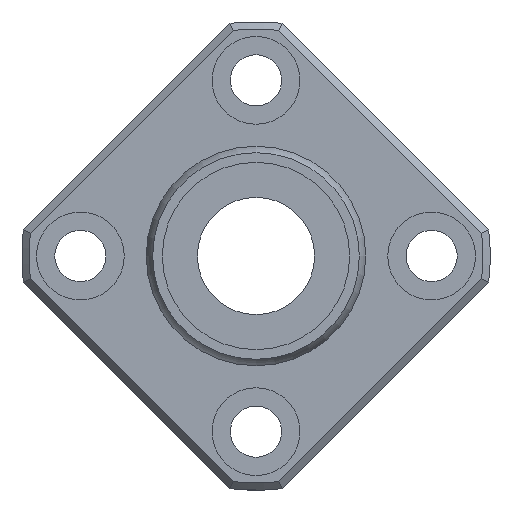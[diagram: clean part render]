
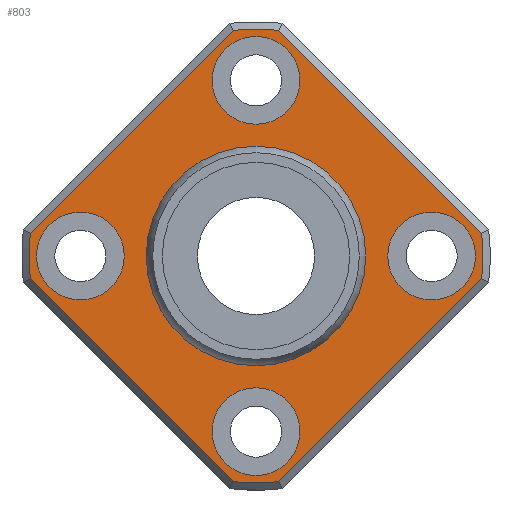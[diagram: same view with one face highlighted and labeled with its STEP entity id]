
A CAD part, left-side view. The second image highlights one B-rep face of the part: STEP entity #803.
In plain terms, the highlighted planar face has unit normal (-1, 0, 0).
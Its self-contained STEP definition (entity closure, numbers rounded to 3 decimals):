
#498=CARTESIAN_POINT('',(20.0,-1.548,-15.422));
#499=VERTEX_POINT('',#498);
#507=CARTESIAN_POINT('',(20.0,1.548,-15.422));
#508=VERTEX_POINT('',#507);
#509=CARTESIAN_POINT('',(20.0,0.0,0.0));
#510=DIRECTION('',(1.0,0.0,0.0));
#511=DIRECTION('',(0.0,0.0,-1.0));
#512=AXIS2_PLACEMENT_3D('',#509,#510,#511);
#513=CIRCLE('',#512,15.5);
#514=EDGE_CURVE('',#499,#508,#513,.T.);
#540=CARTESIAN_POINT('',(20.0,15.422,-1.548));
#541=VERTEX_POINT('',#540);
#542=CARTESIAN_POINT('',(20.0,1.548,-15.422));
#543=DIRECTION('',(0.0,0.707,0.707));
#544=VECTOR('',#543,19.621);
#545=LINE('',#542,#544);
#546=EDGE_CURVE('',#508,#541,#545,.T.);
#573=CARTESIAN_POINT('',(20.0,15.422,1.548));
#574=VERTEX_POINT('',#573);
#575=CARTESIAN_POINT('',(20.0,0.0,0.0));
#576=DIRECTION('',(1.0,0.0,0.0));
#577=DIRECTION('',(0.0,0.0,1.0));
#578=AXIS2_PLACEMENT_3D('',#575,#576,#577);
#579=CIRCLE('',#578,15.5);
#580=EDGE_CURVE('',#541,#574,#579,.T.);
#604=CARTESIAN_POINT('',(20.0,1.548,15.422));
#605=VERTEX_POINT('',#604);
#606=CARTESIAN_POINT('',(20.0,15.422,1.548));
#607=DIRECTION('',(0.0,-0.707,0.707));
#608=VECTOR('',#607,19.621);
#609=LINE('',#606,#608);
#610=EDGE_CURVE('',#574,#605,#609,.T.);
#629=CARTESIAN_POINT('',(20.0,-1.548,15.422));
#630=VERTEX_POINT('',#629);
#631=CARTESIAN_POINT('',(20.0,0.0,0.0));
#632=DIRECTION('',(1.0,0.0,0.0));
#633=DIRECTION('',(0.0,0.0,1.0));
#634=AXIS2_PLACEMENT_3D('',#631,#632,#633);
#635=CIRCLE('',#634,15.5);
#636=EDGE_CURVE('',#605,#630,#635,.T.);
#655=CARTESIAN_POINT('',(20.0,-15.422,1.548));
#656=VERTEX_POINT('',#655);
#657=CARTESIAN_POINT('',(20.0,-1.548,15.422));
#658=DIRECTION('',(0.0,-0.707,-0.707));
#659=VECTOR('',#658,19.621);
#660=LINE('',#657,#659);
#661=EDGE_CURVE('',#630,#656,#660,.T.);
#680=CARTESIAN_POINT('',(20.0,-15.422,-1.548));
#681=VERTEX_POINT('',#680);
#682=CARTESIAN_POINT('',(20.0,0.0,0.0));
#683=DIRECTION('',(1.0,0.0,0.0));
#684=DIRECTION('',(0.0,0.0,1.0));
#685=AXIS2_PLACEMENT_3D('',#682,#683,#684);
#686=CIRCLE('',#685,15.5);
#687=EDGE_CURVE('',#656,#681,#686,.T.);
#706=CARTESIAN_POINT('',(20.0,-15.422,-1.548));
#707=DIRECTION('',(0.0,0.707,-0.707));
#708=VECTOR('',#707,19.621);
#709=LINE('',#706,#708);
#710=EDGE_CURVE('',#681,#499,#709,.T.);
#733=CARTESIAN_POINT('',(20.0,0.0,11.655));
#734=DIRECTION('',(-1.0,0.0,0.0));
#735=DIRECTION('',(0.0,0.0,1.0));
#736=AXIS2_PLACEMENT_3D('',#733,#734,#735);
#737=PLANE('',#736);
#738=ORIENTED_EDGE('',*,*,#514,.F.);
#739=ORIENTED_EDGE('',*,*,#710,.F.);
#740=ORIENTED_EDGE('',*,*,#687,.F.);
#741=ORIENTED_EDGE('',*,*,#661,.F.);
#742=ORIENTED_EDGE('',*,*,#636,.F.);
#743=ORIENTED_EDGE('',*,*,#610,.F.);
#744=ORIENTED_EDGE('',*,*,#580,.F.);
#745=ORIENTED_EDGE('',*,*,#546,.F.);
#746=EDGE_LOOP('',(#738,#739,#740,#741,#742,#743,#744,#745));
#747=FACE_OUTER_BOUND('',#746,.T.);
#748=CARTESIAN_POINT('',(20.,0.0,7.309));
#749=VERTEX_POINT('',#748);
#750=CARTESIAN_POINT('',(20.,0.0,0.0));
#751=DIRECTION('',(-1.0,0.0,0.0));
#752=DIRECTION('',(0.0,0.0,1.0));
#753=AXIS2_PLACEMENT_3D('',#750,#751,#752);
#754=CIRCLE('',#753,7.309);
#755=EDGE_CURVE('',#749,#749,#754,.T.);
#756=ORIENTED_EDGE('',*,*,#755,.F.);
#757=EDGE_LOOP('',(#756));
#758=FACE_BOUND('',#757,.T.);
#759=CARTESIAN_POINT('',(20.0,-9.,0.));
#760=VERTEX_POINT('',#759);
#761=CARTESIAN_POINT('',(20.0,-12.,0.));
#762=DIRECTION('',(1.0,0.0,0.0));
#763=DIRECTION('',(0.0,1.0,0.0));
#764=AXIS2_PLACEMENT_3D('',#761,#762,#763);
#765=CIRCLE('',#764,3.);
#766=EDGE_CURVE('',#760,#760,#765,.T.);
#767=ORIENTED_EDGE('',*,*,#766,.T.);
#768=EDGE_LOOP('',(#767));
#769=FACE_BOUND('',#768,.T.);
#770=CARTESIAN_POINT('',(20.0,15.,0.));
#771=VERTEX_POINT('',#770);
#772=CARTESIAN_POINT('',(20.0,12.,0.));
#773=DIRECTION('',(1.0,0.0,0.0));
#774=DIRECTION('',(0.0,1.0,0.0));
#775=AXIS2_PLACEMENT_3D('',#772,#773,#774);
#776=CIRCLE('',#775,3.);
#777=EDGE_CURVE('',#771,#771,#776,.T.);
#778=ORIENTED_EDGE('',*,*,#777,.T.);
#779=EDGE_LOOP('',(#778));
#780=FACE_BOUND('',#779,.T.);
#781=CARTESIAN_POINT('',(20.0,3.,12.));
#782=VERTEX_POINT('',#781);
#783=CARTESIAN_POINT('',(20.0,0.,12.));
#784=DIRECTION('',(1.0,0.0,0.0));
#785=DIRECTION('',(0.0,1.0,0.0));
#786=AXIS2_PLACEMENT_3D('',#783,#784,#785);
#787=CIRCLE('',#786,3.);
#788=EDGE_CURVE('',#782,#782,#787,.T.);
#789=ORIENTED_EDGE('',*,*,#788,.T.);
#790=EDGE_LOOP('',(#789));
#791=FACE_BOUND('',#790,.T.);
#792=CARTESIAN_POINT('',(20.0,3.,-12.));
#793=VERTEX_POINT('',#792);
#794=CARTESIAN_POINT('',(20.0,0.,-12.));
#795=DIRECTION('',(1.0,0.0,0.0));
#796=DIRECTION('',(0.0,1.0,0.0));
#797=AXIS2_PLACEMENT_3D('',#794,#795,#796);
#798=CIRCLE('',#797,3.);
#799=EDGE_CURVE('',#793,#793,#798,.T.);
#800=ORIENTED_EDGE('',*,*,#799,.T.);
#801=EDGE_LOOP('',(#800));
#802=FACE_BOUND('',#801,.T.);
#803=ADVANCED_FACE('',(#747,#758,#769,#780,#791,#802),#737,.T.);
